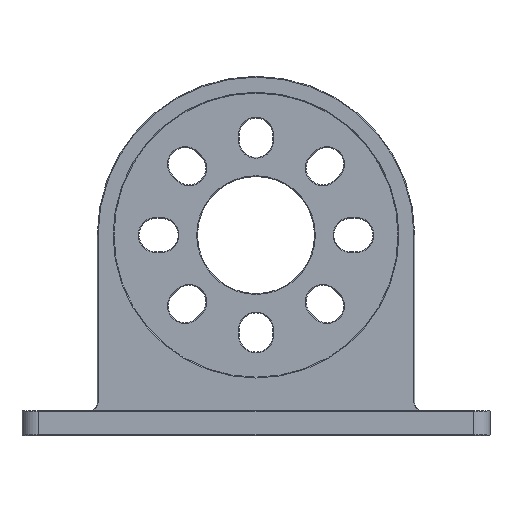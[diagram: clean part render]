
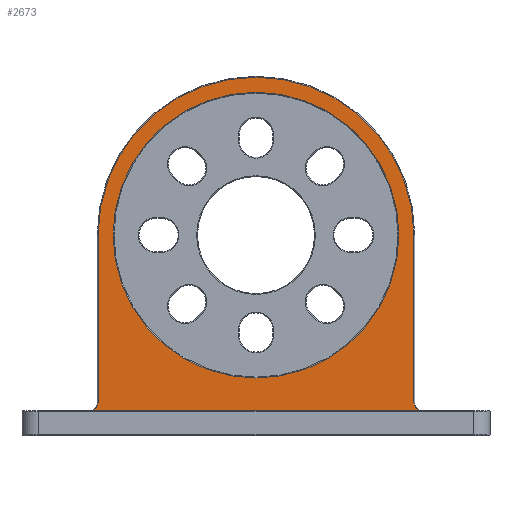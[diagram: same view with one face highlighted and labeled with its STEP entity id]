
A CAD part, front view. The second image highlights one B-rep face of the part: STEP entity #2673.
In plain terms, the highlighted planar face has unit normal (0, -1, 0).
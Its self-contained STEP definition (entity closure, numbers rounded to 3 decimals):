
#65=FACE_BOUND('',#413,.T.);
#114=PLANE('',#2932);
#232=FACE_OUTER_BOUND('',#412,.T.);
#412=EDGE_LOOP('',(#2146,#2147,#2148,#2149,#2150,#2151));
#413=EDGE_LOOP('',(#2152));
#530=LINE('',#4001,#788);
#663=LINE('',#4392,#921);
#664=LINE('',#4396,#922);
#788=VECTOR('',#3147,10.);
#921=VECTOR('',#3544,10.);
#922=VECTOR('',#3547,10.);
#1100=CIRCLE('',#2931,17.1);
#1101=CIRCLE('',#2933,1.1);
#1102=CIRCLE('',#2934,18.9);
#1103=CIRCLE('',#2935,1.1);
#1183=VERTEX_POINT('',#3996);
#1184=VERTEX_POINT('',#4000);
#1302=VERTEX_POINT('',#4385);
#1303=VERTEX_POINT('',#4389);
#1304=VERTEX_POINT('',#4391);
#1305=VERTEX_POINT('',#4393);
#1306=VERTEX_POINT('',#4395);
#1414=EDGE_CURVE('',#1183,#1184,#530,.T.);
#1606=EDGE_CURVE('',#1302,#1302,#1100,.T.);
#1607=EDGE_CURVE('',#1303,#1183,#1101,.T.);
#1608=EDGE_CURVE('',#1304,#1303,#663,.T.);
#1609=EDGE_CURVE('',#1305,#1304,#1102,.T.);
#1610=EDGE_CURVE('',#1306,#1305,#664,.T.);
#1611=EDGE_CURVE('',#1184,#1306,#1103,.T.);
#2146=ORIENTED_EDGE('',*,*,#1607,.F.);
#2147=ORIENTED_EDGE('',*,*,#1608,.F.);
#2148=ORIENTED_EDGE('',*,*,#1609,.F.);
#2149=ORIENTED_EDGE('',*,*,#1610,.F.);
#2150=ORIENTED_EDGE('',*,*,#1611,.F.);
#2151=ORIENTED_EDGE('',*,*,#1414,.F.);
#2152=ORIENTED_EDGE('',*,*,#1606,.F.);
#2673=ADVANCED_FACE('',(#232,#65),#114,.F.);
#2931=AXIS2_PLACEMENT_3D('',#4387,#3538,#3539);
#2932=AXIS2_PLACEMENT_3D('',#4388,#3540,#3541);
#2933=AXIS2_PLACEMENT_3D('',#4390,#3542,#3543);
#2934=AXIS2_PLACEMENT_3D('',#4394,#3545,#3546);
#2935=AXIS2_PLACEMENT_3D('',#4397,#3548,#3549);
#3147=DIRECTION('',(-1.,0.,0.));
#3538=DIRECTION('center_axis',(0.,-1.,0.));
#3539=DIRECTION('ref_axis',(0.,0.,
-1.));
#3540=DIRECTION('center_axis',(0.,1.,0.));
#3541=DIRECTION('ref_axis',(0.,0.,
-1.));
#3542=DIRECTION('center_axis',(0.,-1.,0.));
#3543=DIRECTION('ref_axis',(-0.707,0.,-0.707));
#3544=DIRECTION('',(0.,0.,-1.));
#3545=DIRECTION('center_axis',(0.,1.,0.));
#3546=DIRECTION('ref_axis',(0.,0.,
1.));
#3547=DIRECTION('',(0.,0.,1.));
#3548=DIRECTION('center_axis',(0.,-1.,0.));
#3549=DIRECTION('ref_axis',(0.707,0.,-0.707));
#3996=CARTESIAN_POINT('',(19.542,-3.5,3.));
#4000=CARTESIAN_POINT('',(-19.542,-3.5,3.));
#4001=CARTESIAN_POINT('',(12.,-3.5,3.));
#4385=CARTESIAN_POINT('',(0.,-3.5,41.1));
#4387=CARTESIAN_POINT('Origin',(0.,-3.5,
24.));
#4388=CARTESIAN_POINT('Origin',(0.,-3.5,
24.));
#4389=CARTESIAN_POINT('',(18.9,-3.5,4.));
#4390=CARTESIAN_POINT('Origin',(20.,-3.5,4.));
#4391=CARTESIAN_POINT('',(18.9,-3.5,24.));
#4392=CARTESIAN_POINT('',(18.9,-3.5,24.));
#4393=CARTESIAN_POINT('',(-18.9,-3.5,24.));
#4394=CARTESIAN_POINT('Origin',(0.,-3.5,
24.));
#4395=CARTESIAN_POINT('',(-18.9,-3.5,4.));
#4396=CARTESIAN_POINT('',(-18.9,-3.5,13.5));
#4397=CARTESIAN_POINT('Origin',(-20.,-3.5,4.));
